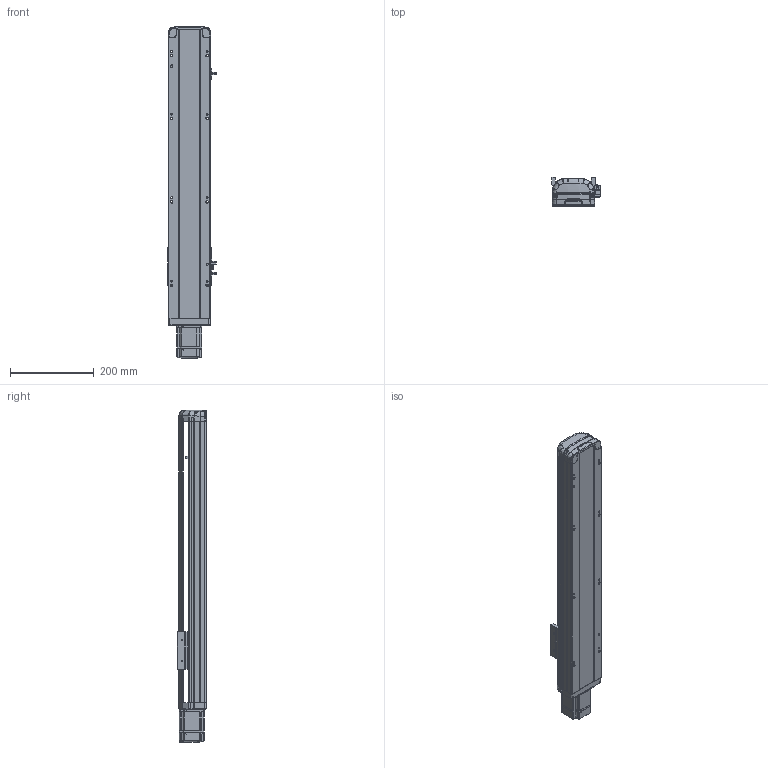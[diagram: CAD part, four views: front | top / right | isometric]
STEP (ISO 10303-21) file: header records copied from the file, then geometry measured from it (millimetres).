
FILE_DESCRIPTION (( 'STEP AP214' ), '1' );
FILE_NAME ('RTH10-XX-450-E-M20-C4.STEP', '2025-10-24T10:43:24', ( '' ), ( '' ), 'SwSTEP 2.0', 'SolidWorks 2018', '' );
FILE_SCHEMA (( 'AUTOMOTIVE_DESIGN' ));
Length unit declared in the file: millimetre
Products named in the file (9): N_OMRON EE-SX672 換覜ん^RTH10-XX-XX-E-M20-C4ㄗ源最宒ㄘ; N_RTH12-GY-001P^RTH10-XX-XX-E-M20-C4（方程式）; N_RTH13-L-012感应片外置^RTH10-XX-XX-E-M20-C4（方程式）; N_200W-1^RTH10-XX-XX-E-M20-C4（方程式）; RTH10-XX-450-E-M20-C4; N_RTH12-E-008-M20电机板^RTH10-XX-XX-E-M20-C4（方程式）; N_RTH12-GY-004-滑座^RTH10-XX-XX-E-M20-C4（方程式）; N_RTH12-E-007P-奻裔^RTH10-XX-XX-E-M20-C4ㄗ源最宒ㄘ; N_RTH12-E-011P-臏倰第菁釱^RTH10-XX-XX-E-M20-C4ㄗ源最宒ㄘ
Assembly tree (10 placements, depth 2):
  RTH10-XX-450-E-M20-C4
    N_RTH12-E-011P-臏倰第菁釱^RTH10-XX-XX-E-M20-C4ㄗ源最宒ㄘ
    N_RTH13-L-012感应片外置^RTH10-XX-XX-E-M20-C4（方程式）
    N_OMRON EE-SX672 換覜ん^RTH10-XX-XX-E-M20-C4ㄗ源最宒ㄘ  x3
    N_RTH12-E-007P-奻裔^RTH10-XX-XX-E-M20-C4ㄗ源最宒ㄘ
    N_RTH12-GY-001P^RTH10-XX-XX-E-M20-C4（方程式）
    N_RTH12-GY-004-滑座^RTH10-XX-XX-E-M20-C4（方程式）
    N_200W-1^RTH10-XX-XX-E-M20-C4（方程式）
    N_RTH12-E-008-M20电机板^RTH10-XX-XX-E-M20-C4（方程式）
Bounding box: 116.5 x 70 x 795.14 mm (x, y, z)
Volume: 3069510 mm3; surface area: 488398.2 mm2
Topology: 9 solids, 11 shells, 1988 faces, 5518 edges, 3622 vertices
Faces by surface type: plane 1004, cylinder 477, bspline 472, cone 33, torus 2
Entity records: 59616 total; most frequent: CARTESIAN_POINT 23314, ORIENTED_EDGE 8116, DIRECTION 6294, EDGE_CURVE 4064, VERTEX_POINT 2666, LINE 2202, VECTOR 2202, AXIS2_PLACEMENT_3D 2046
